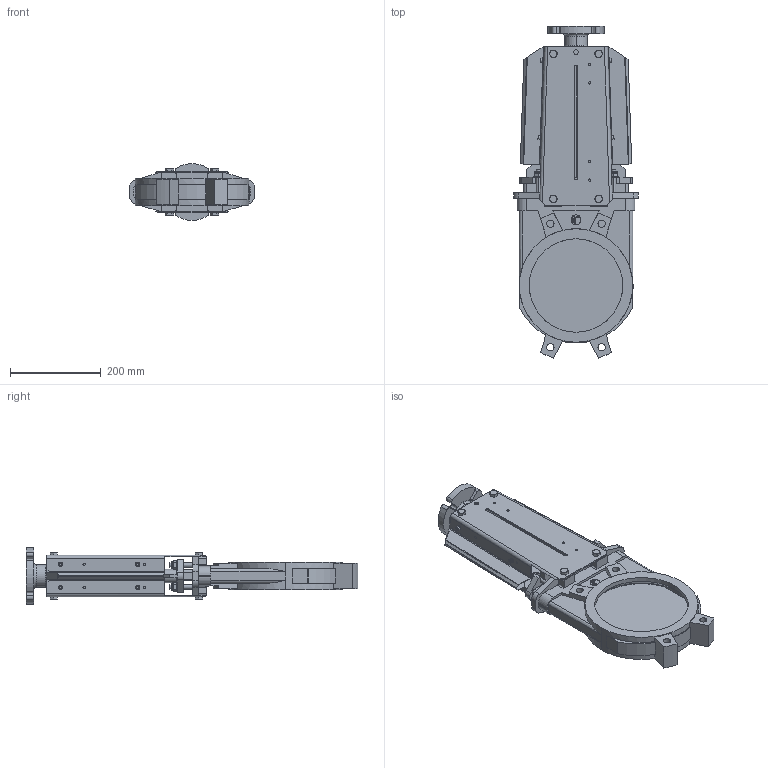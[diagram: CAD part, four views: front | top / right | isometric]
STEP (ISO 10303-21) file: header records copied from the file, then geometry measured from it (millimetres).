
FILE_DESCRIPTION (( 'STEP AP203' ), '1' );
FILE_NAME ('VG E A DN200.STEP', '2010-03-31T06:08:38', ( 'farex' ), ( '' ), 'SwSTEP 2.0', 'SolidWorks 2009', '' );
FILE_SCHEMA (( 'CONFIG_CONTROL_DESIGN' ));
Length unit declared in the file: millimetre
Products named in the file (1): VG E A DN200
Bounding box: 275 x 731.7 x 124.79 mm (x, y, z)
Volume: 4095341 mm3; surface area: 820889.4 mm2
Topology: 2 solids, 15 shells, 909 faces, 2337 edges, 1520 vertices
Faces by surface type: plane 508, cylinder 265, cone 77, bspline 43, torus 16
Entity records: 30851 total; most frequent: CARTESIAN_POINT 8715, ORIENTED_EDGE 4674, DIRECTION 4436, EDGE_CURVE 2337, VERTEX_POINT 1520, AXIS2_PLACEMENT_3D 1509, VECTOR 1418, LINE 1418
